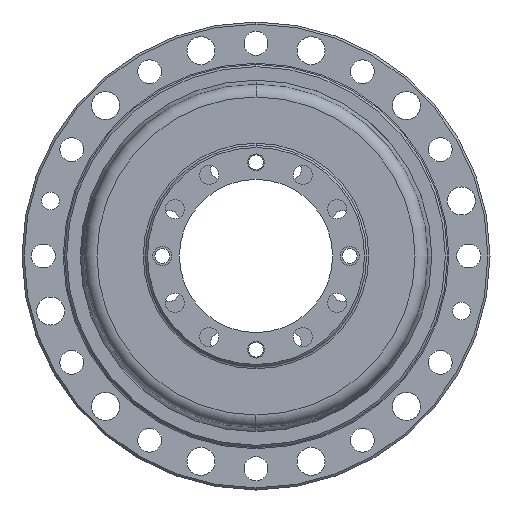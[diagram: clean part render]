
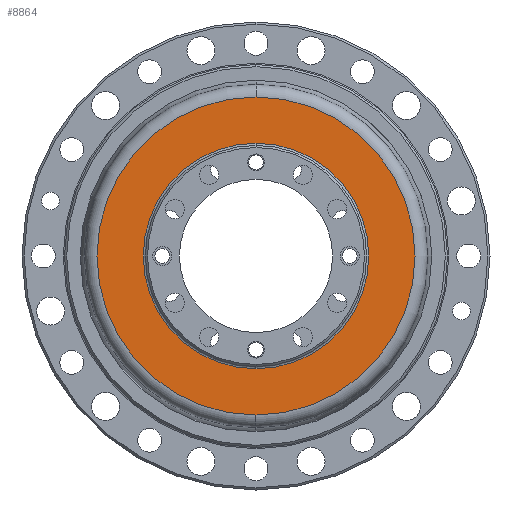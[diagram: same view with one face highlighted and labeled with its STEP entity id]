
A CAD part, left-side view. The second image highlights one B-rep face of the part: STEP entity #8864.
In plain terms, the highlighted planar face has unit normal (-1, 0, 0).
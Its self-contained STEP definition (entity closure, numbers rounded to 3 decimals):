
#246 = DIRECTION ( 'NONE',  ( -1., 0., 0. ) ) ;
#701 = CIRCLE ( 'NONE', #10919, 26.5 ) ;
#1139 = ORIENTED_EDGE ( 'NONE', *, *, #11919, .F. ) ;
#2019 = CARTESIAN_POINT ( 'NONE',  ( 2.56, 0., -26.5 ) ) ;
#2363 = FACE_BOUND ( 'NONE', #3798, .T. ) ;
#2532 = DIRECTION ( 'NONE',  ( 0., 0., -1. ) ) ;
#3462 = PLANE ( 'NONE',  #5847 ) ;
#3776 = CARTESIAN_POINT ( 'NONE',  ( 2.56, 0., 0. ) ) ;
#3798 = EDGE_LOOP ( 'NONE', ( #1139, #5924 ) ) ;
#4382 = CARTESIAN_POINT ( 'NONE',  ( 2.56, 0., 26.5 ) ) ;
#4625 = EDGE_LOOP ( 'NONE', ( #5962, #6882 ) ) ;
#4710 = EDGE_CURVE ( 'NONE', #11185, #5003, #12062, .T. ) ;
#4802 = DIRECTION ( 'NONE',  ( 0., 0., 1. ) ) ;
#4999 = DIRECTION ( 'NONE',  ( -1., 0., 0. ) ) ;
#5003 = VERTEX_POINT ( 'NONE', #12922 ) ;
#5411 = FACE_OUTER_BOUND ( 'NONE', #4625, .T. ) ;
#5847 = AXIS2_PLACEMENT_3D ( 'NONE', #6600, #8638, #2532 ) ;
#5924 = ORIENTED_EDGE ( 'NONE', *, *, #7222, .F. ) ;
#5948 = DIRECTION ( 'NONE',  ( -1., 0., 0. ) ) ;
#5962 = ORIENTED_EDGE ( 'NONE', *, *, #11254, .T. ) ;
#6343 = CARTESIAN_POINT ( 'NONE',  ( 2.56, 0., 0. ) ) ;
#6600 = CARTESIAN_POINT ( 'NONE',  ( 2.56, 26.5, 0. ) ) ;
#6647 = AXIS2_PLACEMENT_3D ( 'NONE', #6343, #246, #7371 ) ;
#6663 = CIRCLE ( 'NONE', #9279, 26.5 ) ;
#6705 = VERTEX_POINT ( 'NONE', #4382 ) ;
#6882 = ORIENTED_EDGE ( 'NONE', *, *, #4710, .T. ) ;
#7222 = EDGE_CURVE ( 'NONE', #11465, #6705, #6663, .T. ) ;
#7371 = DIRECTION ( 'NONE',  ( 0., 0., 1. ) ) ;
#8638 = DIRECTION ( 'NONE',  ( 1., 0., 0. ) ) ;
#8864 = ADVANCED_FACE ( 'NONE', ( #2363, #5411 ), #3462, .F. ) ;
#9279 = AXIS2_PLACEMENT_3D ( 'NONE', #11100, #4999, #12104 ) ;
#10105 = AXIS2_PLACEMENT_3D ( 'NONE', #3776, #10918, #4802 ) ;
#10918 = DIRECTION ( 'NONE',  ( -1., 0., 0. ) ) ;
#10919 = AXIS2_PLACEMENT_3D ( 'NONE', #12041, #5948, #13055 ) ;
#11100 = CARTESIAN_POINT ( 'NONE',  ( 2.56, 0., 0. ) ) ;
#11185 = VERTEX_POINT ( 'NONE', #12670 ) ;
#11254 = EDGE_CURVE ( 'NONE', #5003, #11185, #11392, .T. ) ;
#11392 = CIRCLE ( 'NONE', #10105, 37.373 ) ;
#11465 = VERTEX_POINT ( 'NONE', #2019 ) ;
#11919 = EDGE_CURVE ( 'NONE', #6705, #11465, #701, .T. ) ;
#12041 = CARTESIAN_POINT ( 'NONE',  ( 2.56, 0., 0. ) ) ;
#12062 = CIRCLE ( 'NONE', #6647, 37.373 ) ;
#12104 = DIRECTION ( 'NONE',  ( 0., 0., 1. ) ) ;
#12670 = CARTESIAN_POINT ( 'NONE',  ( 2.56, 0., -37.373 ) ) ;
#12922 = CARTESIAN_POINT ( 'NONE',  ( 2.56, 0., 37.373 ) ) ;
#13055 = DIRECTION ( 'NONE',  ( 0., 0., 1. ) ) ;
